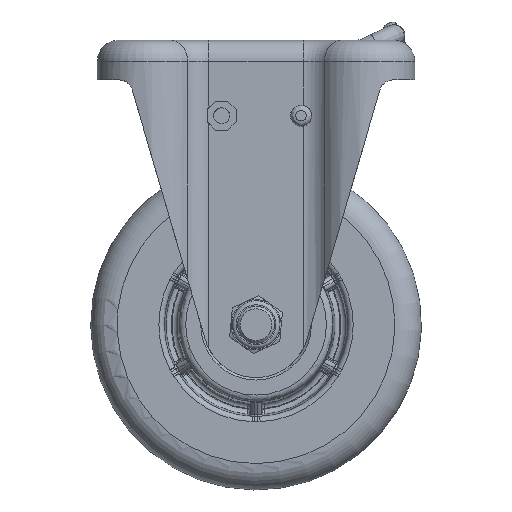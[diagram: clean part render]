
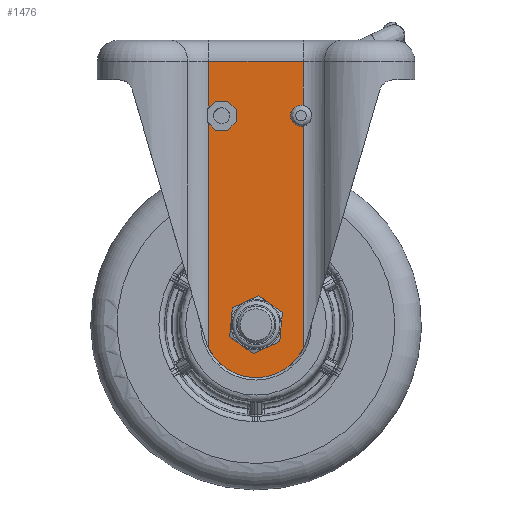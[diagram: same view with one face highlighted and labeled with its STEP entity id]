
A CAD part, front view. The second image highlights one B-rep face of the part: STEP entity #1476.
In plain terms, the highlighted planar face has unit normal (0, -1, 0).
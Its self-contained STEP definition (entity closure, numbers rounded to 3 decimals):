
#1476=ADVANCED_FACE('',(#3577,#3578),#2392,.T.);
#2392=PLANE('',#14759);
#3577=FACE_BOUND('',#3788,.T.);
#3578=FACE_BOUND('',#3789,.T.);
#3788=EDGE_LOOP('',(#5664,#5665,#5666,#5667,#5668,#5669,#5670,#5671,#5672,
#5673,#5674,#5675,#5676,#5677));
#3789=EDGE_LOOP('',(#5678,#5679,#5680,#5681,#5682,#5683));
#4842=CIRCLE('',#14751,20.);
#4843=CIRCLE('',#14752,4.);
#4844=CIRCLE('',#14753,9.5);
#4845=CIRCLE('',#14754,9.5);
#4846=CIRCLE('',#14755,9.5);
#4847=CIRCLE('',#14756,9.5);
#4848=CIRCLE('',#14757,9.5);
#4849=CIRCLE('',#14758,9.5);
#5664=ORIENTED_EDGE('',*,*,#11427,.F.);
#5665=ORIENTED_EDGE('',*,*,#11428,.T.);
#5666=ORIENTED_EDGE('',*,*,#11429,.T.);
#5667=ORIENTED_EDGE('',*,*,#11430,.F.);
#5668=ORIENTED_EDGE('',*,*,#11431,.T.);
#5669=ORIENTED_EDGE('',*,*,#11432,.F.);
#5670=ORIENTED_EDGE('',*,*,#11433,.T.);
#5671=ORIENTED_EDGE('',*,*,#11434,.T.);
#5672=ORIENTED_EDGE('',*,*,#11435,.F.);
#5673=ORIENTED_EDGE('',*,*,#11436,.T.);
#5674=ORIENTED_EDGE('',*,*,#11437,.T.);
#5675=ORIENTED_EDGE('',*,*,#11438,.T.);
#5676=ORIENTED_EDGE('',*,*,#11439,.T.);
#5677=ORIENTED_EDGE('',*,*,#11440,.T.);
#5678=ORIENTED_EDGE('',*,*,#11441,.F.);
#5679=ORIENTED_EDGE('',*,*,#11442,.F.);
#5680=ORIENTED_EDGE('',*,*,#11443,.F.);
#5681=ORIENTED_EDGE('',*,*,#11444,.F.);
#5682=ORIENTED_EDGE('',*,*,#11445,.T.);
#5683=ORIENTED_EDGE('',*,*,#11446,.F.);
#10052=VERTEX_POINT('',#20131);
#10053=VERTEX_POINT('',#20132);
#10054=VERTEX_POINT('',#20134);
#10055=VERTEX_POINT('',#20136);
#10056=VERTEX_POINT('',#20138);
#10057=VERTEX_POINT('',#20140);
#10058=VERTEX_POINT('',#20142);
#10059=VERTEX_POINT('',#20144);
#10060=VERTEX_POINT('',#20146);
#10061=VERTEX_POINT('',#20148);
#10062=VERTEX_POINT('',#20150);
#10063=VERTEX_POINT('',#20152);
#10064=VERTEX_POINT('',#20154);
#10065=VERTEX_POINT('',#20156);
#10066=VERTEX_POINT('',#20159);
#10067=VERTEX_POINT('',#20160);
#10068=VERTEX_POINT('',#20162);
#10069=VERTEX_POINT('',#20164);
#10070=VERTEX_POINT('',#20166);
#10071=VERTEX_POINT('',#20168);
#11427=EDGE_CURVE('',#10052,#10053,#13484,.T.);
#11428=EDGE_CURVE('',#10052,#10054,#13485,.T.);
#11429=EDGE_CURVE('',#10054,#10055,#4842,.T.);
#11430=EDGE_CURVE('',#10056,#10055,#13486,.T.);
#11431=EDGE_CURVE('',#10056,#10057,#4843,.T.);
#11432=EDGE_CURVE('',#10058,#10057,#13487,.T.);
#11433=EDGE_CURVE('',#10058,#10059,#13488,.T.);
#11434=EDGE_CURVE('',#10059,#10060,#13489,.T.);
#11435=EDGE_CURVE('',#10061,#10060,#13490,.T.);
#11436=EDGE_CURVE('',#10061,#10062,#13491,.T.);
#11437=EDGE_CURVE('',#10062,#10063,#13492,.T.);
#11438=EDGE_CURVE('',#10063,#10064,#13493,.T.);
#11439=EDGE_CURVE('',#10064,#10065,#13494,.T.);
#11440=EDGE_CURVE('',#10065,#10053,#13495,.T.);
#11441=EDGE_CURVE('',#10066,#10067,#4844,.T.);
#11442=EDGE_CURVE('',#10068,#10066,#4845,.T.);
#11443=EDGE_CURVE('',#10069,#10068,#4846,.T.);
#11444=EDGE_CURVE('',#10070,#10069,#4847,.T.);
#11445=EDGE_CURVE('',#10070,#10071,#4848,.T.);
#11446=EDGE_CURVE('',#10067,#10071,#4849,.T.);
#13484=LINE('',#20130,#14111);
#13485=LINE('',#20133,#14112);
#13486=LINE('',#20137,#14113);
#13487=LINE('',#20141,#14114);
#13488=LINE('',#20143,#14115);
#13489=LINE('',#20145,#14116);
#13490=LINE('',#20147,#14117);
#13491=LINE('',#20149,#14118);
#13492=LINE('',#20151,#14119);
#13493=LINE('',#20153,#14120);
#13494=LINE('',#20155,#14121);
#13495=LINE('',#20157,#14122);
#14111=VECTOR('',#16193,1.);
#14112=VECTOR('',#16194,1.);
#14113=VECTOR('',#16197,1.);
#14114=VECTOR('',#16200,1.);
#14115=VECTOR('',#16201,1.);
#14116=VECTOR('',#16202,1.);
#14117=VECTOR('',#16203,1.);
#14118=VECTOR('',#16204,1.);
#14119=VECTOR('',#16205,1.);
#14120=VECTOR('',#16206,1.);
#14121=VECTOR('',#16207,1.);
#14122=VECTOR('',#16208,1.);
#14751=AXIS2_PLACEMENT_3D('',#20135,#16195,#16196);
#14752=AXIS2_PLACEMENT_3D('',#20139,#16198,#16199);
#14753=AXIS2_PLACEMENT_3D('',#20158,#16209,#16210);
#14754=AXIS2_PLACEMENT_3D('',#20161,#16211,#16212);
#14755=AXIS2_PLACEMENT_3D('',#20163,#16213,#16214);
#14756=AXIS2_PLACEMENT_3D('',#20165,#16215,#16216);
#14757=AXIS2_PLACEMENT_3D('',#20167,#16217,#16218);
#14758=AXIS2_PLACEMENT_3D('',#20169,#16219,#16220);
#14759=AXIS2_PLACEMENT_3D('',#20170,#16221,#16222);
#16193=DIRECTION('',(0.707,0.,-0.707));
#16194=DIRECTION('',(0.,0.,-1.));
#16195=DIRECTION('',(0.,-1.,0.));
#16196=DIRECTION('',(1.,0.,0.));
#16197=DIRECTION('',(0.,0.,-1.));
#16198=DIRECTION('',(0.,1.,0.));
#16199=DIRECTION('',(0.,0.,-1.));
#16200=DIRECTION('',(0.,0.,-1.));
#16201=DIRECTION('',(-1.,0.,0.));
#16202=DIRECTION('',(0.,0.,-1.));
#16203=DIRECTION('',(-0.707,0.,-0.707));
#16204=DIRECTION('',(1.,0.,0.));
#16205=DIRECTION('',(0.707,0.,-0.707));
#16206=DIRECTION('',(0.,0.,-1.));
#16207=DIRECTION('',(-0.707,0.,-0.707));
#16208=DIRECTION('',(-1.,0.,0.));
#16209=DIRECTION('',(0.,-1.,0.));
#16210=DIRECTION('',(-0.577,0.,-0.817));
#16211=DIRECTION('',(0.,-1.,0.));
#16212=DIRECTION('',(-0.577,0.,-0.817));
#16213=DIRECTION('',(0.,-1.,0.));
#16214=DIRECTION('',(-0.577,0.,-0.817));
#16215=DIRECTION('',(0.,-1.,0.));
#16216=DIRECTION('',(-0.577,0.,-0.817));
#16217=DIRECTION('',(0.,1.,0.));
#16218=DIRECTION('',(0.577,0.,0.817));
#16219=DIRECTION('',(0.,-1.,0.));
#16220=DIRECTION('',(-0.577,0.,-0.817));
#16221=DIRECTION('',(0.,-1.,0.));
#16222=DIRECTION('',(-1.,0.,0.));
#20130=CARTESIAN_POINT('',(-16.898,-29.5,-32.389));
#20131=CARTESIAN_POINT('',(-17.885,-29.5,-31.403));
#20132=CARTESIAN_POINT('',(-15.287,-29.5,-34.));
#20133=CARTESIAN_POINT('',(-17.885,-29.5,-75.));
#20134=CARTESIAN_POINT('',(-17.885,-29.5,-116.471));
#20135=CARTESIAN_POINT('',(-0.009,-29.5,-107.5));
#20136=CARTESIAN_POINT('',(17.866,-29.5,-116.471));
#20137=CARTESIAN_POINT('',(17.866,-29.5,-75.));
#20138=CARTESIAN_POINT('',(17.866,-29.5,-32.403));
#20139=CARTESIAN_POINT('',(16.991,-29.5,-28.5));
#20140=CARTESIAN_POINT('',(17.866,-29.5,-24.597));
#20141=CARTESIAN_POINT('',(17.866,-29.5,-75.));
#20142=CARTESIAN_POINT('',(17.866,-29.5,-8.));
#20143=CARTESIAN_POINT('',(17.866,-29.5,-8.));
#20144=CARTESIAN_POINT('',(-17.885,-29.5,-8.));
#20145=CARTESIAN_POINT('',(-17.885,-29.5,-75.));
#20146=CARTESIAN_POINT('',(-17.885,-29.5,-25.597));
#20147=CARTESIAN_POINT('',(-16.898,-29.5,-24.611));
#20148=CARTESIAN_POINT('',(-15.287,-29.5,-23.));
#20149=CARTESIAN_POINT('',(30.48,-29.5,-23.));
#20150=CARTESIAN_POINT('',(-10.731,-29.5,-23.));
#20151=CARTESIAN_POINT('',(-3.875,-29.5,-29.856));
#20152=CARTESIAN_POINT('',(-7.509,-29.5,-26.222));
#20153=CARTESIAN_POINT('',(-7.509,-29.5,4.5));
#20154=CARTESIAN_POINT('',(-7.509,-29.5,-30.778));
#20155=CARTESIAN_POINT('',(29.125,-29.5,5.856));
#20156=CARTESIAN_POINT('',(-10.731,-29.5,-34.));
#20157=CARTESIAN_POINT('',(30.48,-29.5,-34.));
#20158=CARTESIAN_POINT('',(-0.009,-29.5,-107.5));
#20159=CARTESIAN_POINT('',(-5.494,-29.5,-115.257));
#20160=CARTESIAN_POINT('',(3.966,-29.5,-116.128));
#20161=CARTESIAN_POINT('',(-0.009,-29.5,-107.5));
#20162=CARTESIAN_POINT('',(-9.469,-29.5,-106.629));
#20163=CARTESIAN_POINT('',(-0.009,-29.5,-107.5));
#20164=CARTESIAN_POINT('',(-3.985,-29.5,-98.872));
#20165=CARTESIAN_POINT('',(-0.009,-29.5,-107.5));
#20166=CARTESIAN_POINT('',(5.475,-29.5,-99.743));
#20167=CARTESIAN_POINT('',(-0.009,-29.5,-107.5));
#20168=CARTESIAN_POINT('',(9.451,-29.5,-108.371));
#20169=CARTESIAN_POINT('',(-0.009,-29.5,-107.5));
#20170=CARTESIAN_POINT('',(17.866,-29.5,-75.));
